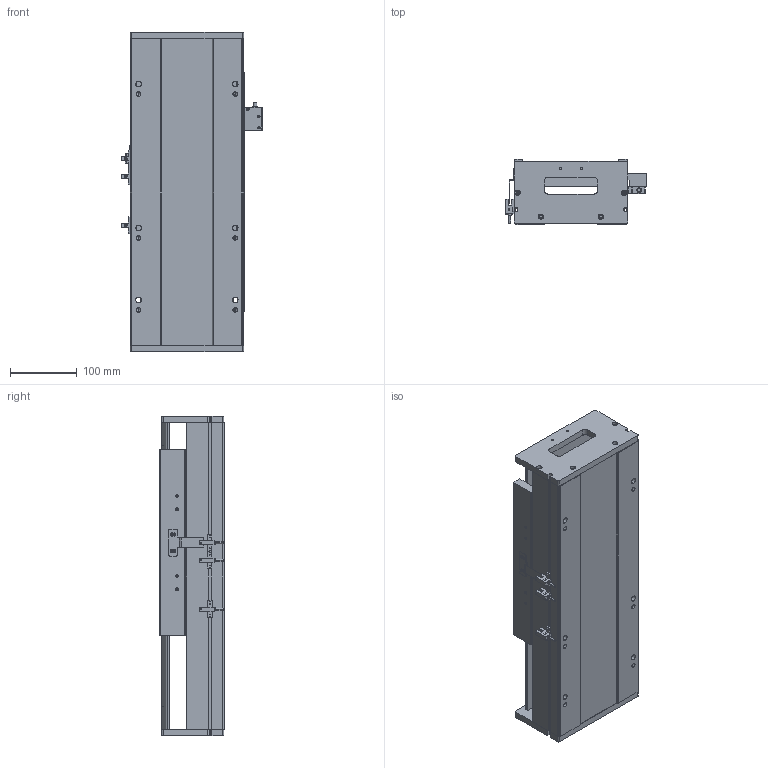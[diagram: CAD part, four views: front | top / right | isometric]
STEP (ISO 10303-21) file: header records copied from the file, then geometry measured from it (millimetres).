
FILE_DESCRIPTION (( 'STEP AP203' ), '1' );
FILE_NAME ('SKR17S-C2-S100（简）.STEP', '2022-09-29T07:03:50', ( '' ), ( '' ), 'SwSTEP 2.0', 'SolidWorks 2018', '' );
FILE_SCHEMA (( 'CONFIG_CONTROL_DESIGN' ));
Length unit declared in the file: millimetre
Products named in the file (8): SKR17耜啣; SKR17S-C2-S100（简）; EE-SX672; 感应片（SKR12S-14S-17S）; SKR17菁釱-C2-S100(潠); SKR17滑台-280L（简）; SIKO棠掑; 棠掑假蚾輸
Assembly tree (10 placements, depth 2):
  SKR17S-C2-S100（简）
    SKR17菁釱-C2-S100(潠)
    SIKO棠掑
    EE-SX672  x3
    SKR17耜啣  x2
    棠掑假蚾輸
    SKR17滑台-280L（简）
    感应片（SKR12S-14S-17S）
Bounding box: 212.7 x 97 x 480 mm (x, y, z)
Volume: 4572218.6 mm3; surface area: 649731 mm2
Topology: 11 solids, 11 shells, 952 faces, 2616 edges, 1680 vertices
Faces by surface type: plane 425, cylinder 421, cone 106
Entity records: 27171 total; most frequent: CARTESIAN_POINT 6159, ORIENTED_EDGE 4268, DIRECTION 4165, EDGE_CURVE 2134, AXIS2_PLACEMENT_3D 1470, VERTEX_POINT 1384, VECTOR 1225, LINE 1225
